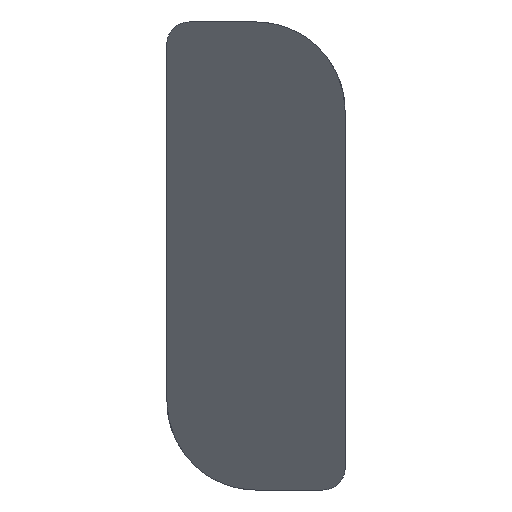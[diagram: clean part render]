
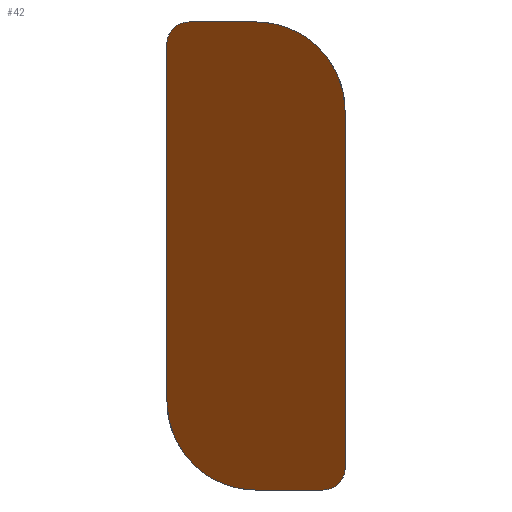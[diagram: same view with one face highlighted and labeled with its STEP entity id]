
A CAD part, left-side view. The second image highlights one B-rep face of the part: STEP entity #42.
In plain terms, the highlighted planar face has unit normal (-0.766, 0, -0.643).
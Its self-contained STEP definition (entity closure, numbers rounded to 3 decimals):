
#8 = CARTESIAN_POINT ( 'NONE',  ( -6.885, 4., -4.422 ) ) ;
#15 = ORIENTED_EDGE ( 'NONE', *, *, #56, .T. ) ;
#21 = EDGE_LOOP ( 'NONE', ( #107, #15, #444, #241, #88, #272, #248, #30 ) ) ;
#30 = ORIENTED_EDGE ( 'NONE', *, *, #62, .T. ) ;
#32 = CARTESIAN_POINT ( 'NONE',  ( -15., 0.828, 5.25 ) ) ;
#42 = ADVANCED_FACE ( 'NONE', ( #157 ), #228, .F. ) ;
#55 = CARTESIAN_POINT ( 'NONE',  ( -6.189, 0.5, -5.25 ) ) ;
#56 = EDGE_CURVE ( 'NONE', #119, #82, #294, .T. ) ;
#57 = VECTOR ( 'NONE', #335, 1000. ) ;
#62 = EDGE_CURVE ( 'NONE', #368, #147, #549, .T. ) ;
#82 = VERTEX_POINT ( 'NONE', #140 ) ;
#88 = ORIENTED_EDGE ( 'NONE', *, *, #476, .F. ) ;
#94 = CARTESIAN_POINT ( 'NONE',  ( -6.189, 3.172, -5.25 ) ) ;
#96 = CARTESIAN_POINT ( 'NONE',  ( -6.189, 0.5, -5.25 ) ) ;
#102 = LINE ( 'NONE', #501, #57 ) ;
#104 = CARTESIAN_POINT ( 'NONE',  ( -15., 2., 5.25 ) ) ;
#107 = ORIENTED_EDGE ( 'NONE', *, *, #334, .T. ) ;
#119 = VERTEX_POINT ( 'NONE', #55 ) ;
#120 = VECTOR ( 'NONE', #496, 1000. ) ;
#130 = VERTEX_POINT ( 'NONE', #261 ) ;
#131 = VECTOR ( 'NONE', #489, 1000. ) ;
#139 =( BOUNDED_CURVE ( )  B_SPLINE_CURVE ( 3, ( #506, #462, #204, #499 ),
 .UNSPECIFIED., .F., .T. ) 
 B_SPLINE_CURVE_WITH_KNOTS ( ( 4, 4 ),
 ( 3.142, 4.712 ),
 .UNSPECIFIED. ) 
 CURVE ( )  GEOMETRIC_REPRESENTATION_ITEM ( )  RATIONAL_B_SPLINE_CURVE ( ( 1., 0.805, 0.805, 1. ) ) 
 REPRESENTATION_ITEM ( '' )  );
#140 = CARTESIAN_POINT ( 'NONE',  ( -6.609, 0., -4.75 ) ) ;
#147 = VERTEX_POINT ( 'NONE', #354 ) ;
#154 = CARTESIAN_POINT ( 'NONE',  ( -15., 0., 5.25 ) ) ;
#157 = FACE_OUTER_BOUND ( 'NONE', #21, .T. ) ;
#204 = CARTESIAN_POINT ( 'NONE',  ( -14.826, 4., 5.043 ) ) ;
#207 = LINE ( 'NONE', #532, #285 ) ;
#213 = LINE ( 'NONE', #154, #131 ) ;
#214 = VERTEX_POINT ( 'NONE', #104 ) ;
#228 = PLANE ( 'NONE',  #360 ) ;
#230 = EDGE_CURVE ( 'NONE', #82, #374, #213, .T. ) ;
#241 = ORIENTED_EDGE ( 'NONE', *, *, #470, .T. ) ;
#248 = ORIENTED_EDGE ( 'NONE', *, *, #346, .F. ) ;
#261 = CARTESIAN_POINT ( 'NONE',  ( -14.58, 4., 4.75 ) ) ;
#269 = LINE ( 'NONE', #533, #120 ) ;
#272 = ORIENTED_EDGE ( 'NONE', *, *, #539, .T. ) ;
#285 = VECTOR ( 'NONE', #458, 1000. ) ;
#287 = CARTESIAN_POINT ( 'NONE',  ( -7.868, 4., -3.25 ) ) ;
#294 =( BOUNDED_CURVE ( )  B_SPLINE_CURVE ( 3, ( #96, #481, #514, #353 ),
 .UNSPECIFIED., .F., .F. ) 
 B_SPLINE_CURVE_WITH_KNOTS ( ( 4, 4 ),
 ( 0., 1.571 ),
 .UNSPECIFIED. ) 
 CURVE ( )  GEOMETRIC_REPRESENTATION_ITEM ( )  RATIONAL_B_SPLINE_CURVE ( ( 1., 0.805, 0.805, 1. ) ) 
 REPRESENTATION_ITEM ( '' )  );
#307 = DIRECTION ( 'NONE',  ( 0.643, 0., -0.766 ) ) ;
#310 = CARTESIAN_POINT ( 'NONE',  ( -15., 4., 5.25 ) ) ;
#311 = CARTESIAN_POINT ( 'NONE',  ( -6.189, 2., -5.25 ) ) ;
#324 = VERTEX_POINT ( 'NONE', #370 ) ;
#330 = CARTESIAN_POINT ( 'NONE',  ( -15., 2., 5.25 ) ) ;
#334 = EDGE_CURVE ( 'NONE', #147, #119, #207, .T. ) ;
#335 = DIRECTION ( 'NONE',  ( 0., -1., 0. ) ) ;
#346 = EDGE_CURVE ( 'NONE', #368, #130, #269, .T. ) ;
#353 = CARTESIAN_POINT ( 'NONE',  ( -6.609, 0., -4.75 ) ) ;
#354 = CARTESIAN_POINT ( 'NONE',  ( -6.189, 2., -5.25 ) ) ;
#356 =( BOUNDED_CURVE ( )  B_SPLINE_CURVE ( 3, ( #421, #415, #32, #330 ),
 .UNSPECIFIED., .F., .T. ) 
 B_SPLINE_CURVE_WITH_KNOTS ( ( 4, 4 ),
 ( 4.712, 6.283 ),
 .UNSPECIFIED. ) 
 CURVE ( )  GEOMETRIC_REPRESENTATION_ITEM ( )  RATIONAL_B_SPLINE_CURVE ( ( 1., 0.805, 0.805, 1. ) ) 
 REPRESENTATION_ITEM ( '' )  );
#360 = AXIS2_PLACEMENT_3D ( 'NONE', #310, #521, #307 ) ;
#368 = VERTEX_POINT ( 'NONE', #287 ) ;
#370 = CARTESIAN_POINT ( 'NONE',  ( -15., 3.5, 5.25 ) ) ;
#373 = CARTESIAN_POINT ( 'NONE',  ( -13.322, 0., 3.25 ) ) ;
#374 = VERTEX_POINT ( 'NONE', #373 ) ;
#415 = CARTESIAN_POINT ( 'NONE',  ( -14.305, 0., 4.422 ) ) ;
#421 = CARTESIAN_POINT ( 'NONE',  ( -13.322, 0., 3.25 ) ) ;
#443 = CARTESIAN_POINT ( 'NONE',  ( -7.868, 4., -3.25 ) ) ;
#444 = ORIENTED_EDGE ( 'NONE', *, *, #230, .T. ) ;
#458 = DIRECTION ( 'NONE',  ( 0., -1., 0. ) ) ;
#462 = CARTESIAN_POINT ( 'NONE',  ( -15., 3.793, 5.25 ) ) ;
#470 = EDGE_CURVE ( 'NONE', #374, #214, #356, .T. ) ;
#476 = EDGE_CURVE ( 'NONE', #324, #214, #102, .T. ) ;
#481 = CARTESIAN_POINT ( 'NONE',  ( -6.189, 0.207, -5.25 ) ) ;
#489 = DIRECTION ( 'NONE',  ( -0.643, 0., 0.766 ) ) ;
#496 = DIRECTION ( 'NONE',  ( -0.643, 0., 0.766 ) ) ;
#499 = CARTESIAN_POINT ( 'NONE',  ( -14.58, 4., 4.75 ) ) ;
#501 = CARTESIAN_POINT ( 'NONE',  ( -15., 4., 5.25 ) ) ;
#506 = CARTESIAN_POINT ( 'NONE',  ( -15., 3.5, 5.25 ) ) ;
#514 = CARTESIAN_POINT ( 'NONE',  ( -6.363, 0., -5.043 ) ) ;
#521 = DIRECTION ( 'NONE',  ( 0.766, 0., 0.643 ) ) ;
#532 = CARTESIAN_POINT ( 'NONE',  ( -6.189, 4., -5.25 ) ) ;
#533 = CARTESIAN_POINT ( 'NONE',  ( -15., 4., 5.25 ) ) ;
#539 = EDGE_CURVE ( 'NONE', #324, #130, #139, .T. ) ;
#549 =( BOUNDED_CURVE ( )  B_SPLINE_CURVE ( 3, ( #443, #8, #94, #311 ),
 .UNSPECIFIED., .F., .F. ) 
 B_SPLINE_CURVE_WITH_KNOTS ( ( 4, 4 ),
 ( 1.571, 3.142 ),
 .UNSPECIFIED. ) 
 CURVE ( )  GEOMETRIC_REPRESENTATION_ITEM ( )  RATIONAL_B_SPLINE_CURVE ( ( 1., 0.805, 0.805, 1. ) ) 
 REPRESENTATION_ITEM ( '' )  );
